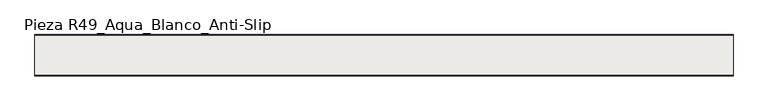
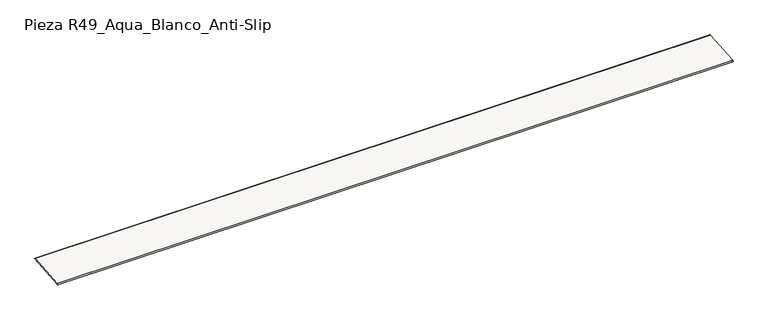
"""IFC4 building model written with IfcOpenShell, lengths in millimetres: slab geometry, ROSA GRES_R49 : Pieza R49_Aqua_Blanco_Anti-Slip."""

from ifc_helpers import new_model, si_unit, point, frame, frame_2d, origin, place, context, project, spatial, polyline, circle_curve, trimmed, segment, composite_curve, outline, extrude, source, transform, mapped, element, save


def pieza_r49_aqua_blanco_anti_slip_dcf15e24(model_context):
    return source(origin(), model_context, "Body", "SweptSolid", [
        extrude(outline(composite_curve([segment(polyline([(70.1539646, 196.3880826), (70.0315861, 197.89159)]), True, "CONTINUOUS"), segment(trimmed(circle_curve(frame_2d((77.8482549, 197.189121)), 7.8481701), [point((70.0315861, 197.89159))], [point((76.6234074, 204.9411222))], False, "CARTESIAN"), True, "CONTINUOUS"), segment(polyline([(76.6234074, 204.9411222), (364.6716123, 228.3869063)]), True, "CONTINUOUS"), segment(trimmed(circle_curve(frame_2d((364.7862135, 226.9789488)), 1.4126139), [point((364.6716123, 228.3869063))], [point((365.5494776, 228.1676059))], False, "CARTESIAN"), True, "CONTINUOUS"), segment(polyline([(365.5494776, 228.1676059), (366.1749837, 220.4828167), (70.1539646, 196.3880826)]), True, "CONTINUOUS")], self_intersect=False)), frame((0.0, 0.0, 0.0), z_axis=(1.0, 0.0, 0.0), x_axis=(0.0, 1.0, 0.0)), (0.0, 0.0, 1.0), 5002.7212836),
    ])


if __name__ == "__main__":
    model = new_model("IFC4")
    model_context = context("Model", 3, world=origin())
    ifc_project = project(units=[si_unit("LENGTHUNIT", "METRE", prefix="MILLI")], contexts=[model_context])
    site = spatial("IfcSite", under=ifc_project)
    building = spatial("IfcBuilding", under=site)
    placement = place(None, origin())
    pieza_r49_aqua_blanco_anti_slip_shape = pieza_r49_aqua_blanco_anti_slip_dcf15e24(model_context)
    element("IfcSlab", 1, ObjectType="ROSA GRES_R49 : Pieza R49_Aqua_Blanco_Anti-Slip", at=placement, inside=building, context=model_context, shape_type="MappedRepresentation", body=[
        mapped(pieza_r49_aqua_blanco_anti_slip_shape, transform((0.0, 0.0, 0.0), x_axis=(1.0, 0.0, 0.0), y_axis=(0.0, 1.0, 0.0), z_axis=(0.0, 0.0, 1.0))),
    ])
    save(model, "model.ifc")
